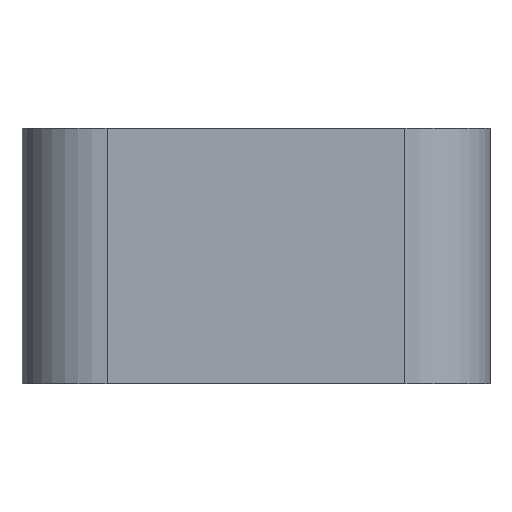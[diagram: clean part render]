
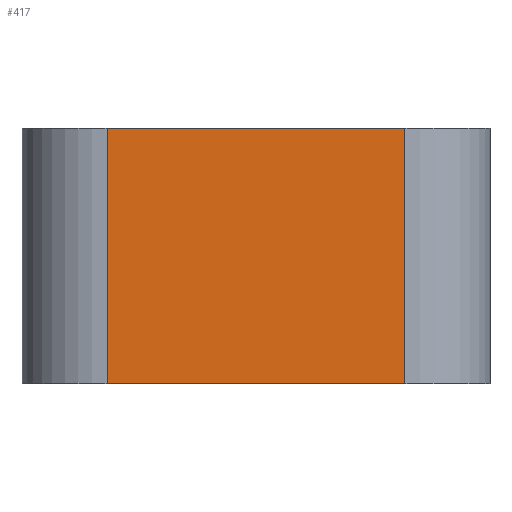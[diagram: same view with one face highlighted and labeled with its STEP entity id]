
A CAD part, left-side view. The second image highlights one B-rep face of the part: STEP entity #417.
In plain terms, the highlighted planar face has unit normal (-1, 0, 0).
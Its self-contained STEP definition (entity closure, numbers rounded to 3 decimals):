
#27=PLANE('',#454);
#43=FACE_OUTER_BOUND('',#69,.T.);
#69=EDGE_LOOP('',(#317,#318,#319,#320));
#97=LINE('',#708,#130);
#99=LINE('',#714,#132);
#105=LINE('',#734,#138);
#106=LINE('',#735,#139);
#130=VECTOR('',#513,10.);
#132=VECTOR('',#519,10.);
#138=VECTOR('',#535,10.);
#139=VECTOR('',#536,10.);
#192=VERTEX_POINT('',#705);
#193=VERTEX_POINT('',#707);
#195=VERTEX_POINT('',#713);
#204=VERTEX_POINT('',#733);
#236=EDGE_CURVE('',#192,#193,#97,.T.);
#239=EDGE_CURVE('',#193,#195,#99,.T.);
#249=EDGE_CURVE('',#192,#204,#105,.T.);
#250=EDGE_CURVE('',#195,#204,#106,.T.);
#317=ORIENTED_EDGE('',*,*,#236,.F.);
#318=ORIENTED_EDGE('',*,*,#249,.T.);
#319=ORIENTED_EDGE('',*,*,#250,.F.);
#320=ORIENTED_EDGE('',*,*,#239,.F.);
#417=ADVANCED_FACE('',(#43),#27,.T.);
#454=AXIS2_PLACEMENT_3D('',#732,#533,#534);
#513=DIRECTION('',(0.,0.,1.));
#519=DIRECTION('',(0.,-1.,0.));
#533=DIRECTION('center_axis',(-1.,0.,0.));
#534=DIRECTION('ref_axis',(0.,1.,0.));
#535=DIRECTION('',(0.,-1.,0.));
#536=DIRECTION('',(0.,0.,-1.));
#705=CARTESIAN_POINT('',(-125.,-2.2,-15.));
#707=CARTESIAN_POINT('',(-125.,-2.2,15.));
#708=CARTESIAN_POINT('',(-125.,-2.2,15.));
#713=CARTESIAN_POINT('',(-125.,-37.2,15.));
#714=CARTESIAN_POINT('',(-125.,7.8,15.));
#732=CARTESIAN_POINT('Origin',(-125.,-47.2,15.));
#733=CARTESIAN_POINT('',(-125.,-37.2,-15.));
#734=CARTESIAN_POINT('',(-125.,-33.45,-15.));
#735=CARTESIAN_POINT('',(-125.,-37.2,0.));
